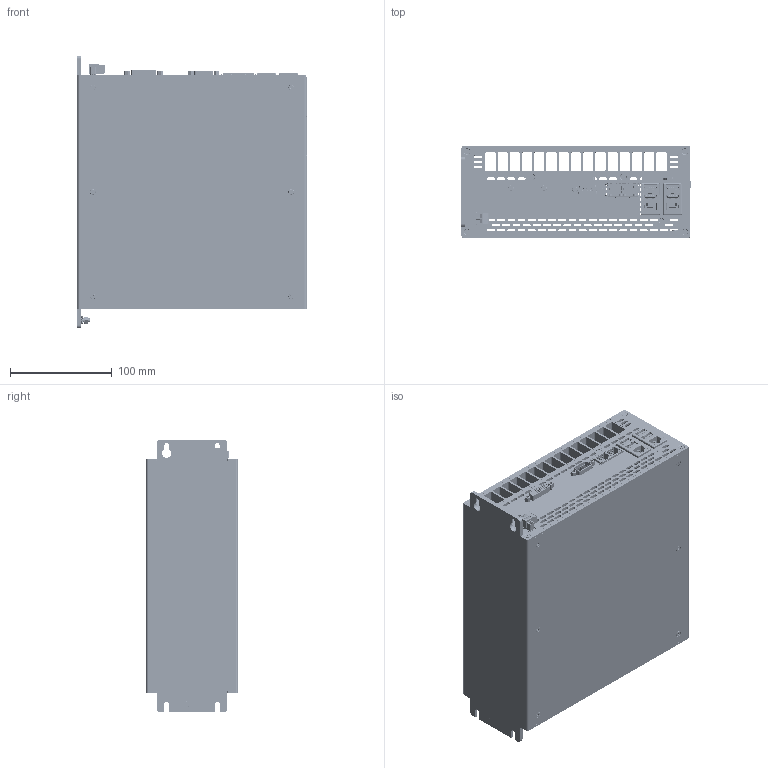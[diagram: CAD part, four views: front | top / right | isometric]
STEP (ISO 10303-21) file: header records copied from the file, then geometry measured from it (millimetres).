
FILE_DESCRIPTION (( 'STEP AP214' ), '1' );
FILE_NAME ('C6P34-BM_D0_DVI.STEP', '2019-09-20T10:52:18', ( '' ), ( '' ), 'SwSTEP 2.0', 'SolidWorks 2018', '' );
FILE_SCHEMA (( 'AUTOMOTIVE_DESIGN' ));
Length unit declared in the file: millimetre
Products named in the file (39): 52536136; 64312003; 66820000; 21410046; 62990009; 61820002; 62920011; piazzuola_de800_di370; C6P34-BM_D0_DVI; 57136005; 20100011; 7359_051_Depopolata; 21509026; 54336011; 66811014; 62120039; 21512011; 66011039; 21410056; 62920001; 56636681; 23330039; 62920005; 21502089; 56636680; 52500002; 7397_279; 7397_279_Depopolata; 54336008_Default<A macchina>; 21614000; 14300036; 66320015; 53936027; 21409042; 52912002; 54236002_Default<A macchina>; 21402062; 7359_051; 21410052
Assembly tree (91 placements, depth 3):
  C6P34-BM_D0_DVI
    52500002
      52536136
      52912002
      66320015  x4
    7359_051_Depopolata
      7359_051
      23330039  x4
      21410052
      21512011
      21410046  x2
      21410056
      21409042
      20100011
      21509026
      piazzuola_de800_di370  x8
      14300036  x7
    54236002_Default<A macchina>
    7397_279_Depopolata
      7397_279
      21502089
      piazzuola_de800_di370  x5
    21402062
    54336011
      54336008_Default<A macchina>
      57136005
      62990009  x2
      64312003  x2
      62120039
    56636681
    56636680
    53936027  x2
    21614000  x4
    66011039  x12
    62920001
    62920005
    62920011
    61820002
    66820000
    66811014  x12
Bounding box: 225.01 x 90 x 268 mm (x, y, z)
Volume: 490859.3 mm3; surface area: 899929.7 mm2
Topology: 148 solids, 258 shells, 16979 faces, 46837 edges, 30497 vertices
Faces by surface type: plane 10077, cylinder 5819, bspline 598, cone 442, torus 43
Entity records: 502720 total; most frequent: CARTESIAN_POINT 111505, ORIENTED_EDGE 79038, DIRECTION 72918, EDGE_CURVE 39672, VECTOR 27896, LINE 27896, VERTEX_POINT 25909, AXIS2_PLACEMENT_3D 22511
